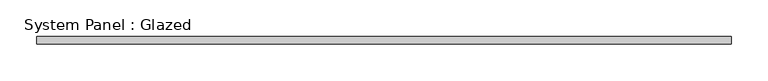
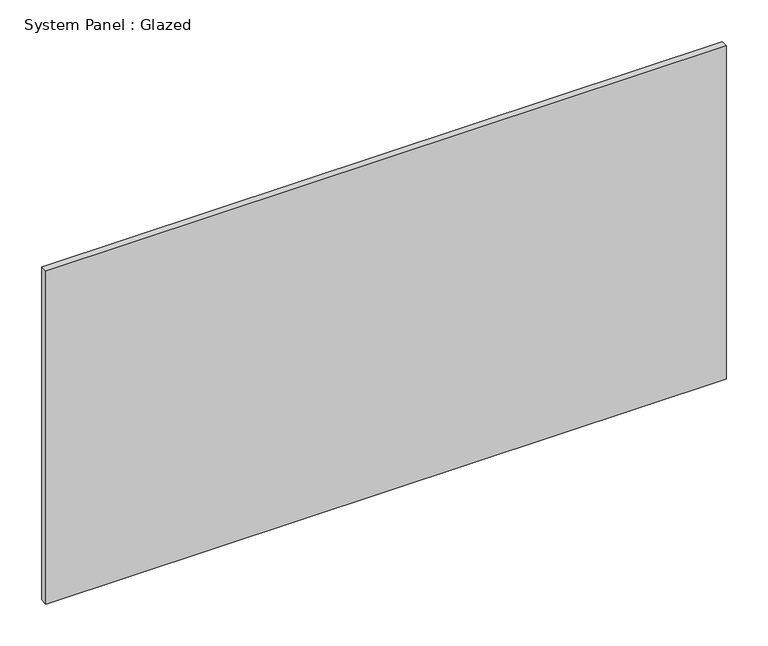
"""IFC4 building model written with IfcOpenShell, lengths in millimetres: plate geometry, System Panel : Glazed."""

from ifc_helpers import new_model, si_unit, origin, origin_with_axes, place, context, project, spatial, polyline, outline, extrude, source, transform, mapped, element, save


def system_panel_glazed_908aa84a(model_context):
    return source(origin(), model_context, "Body", "SweptSolid", [
        extrude(outline(polyline([(471.3037323, -5.0), (-471.3037323, -5.0), (-471.3037323, 5.0), (471.3037323, 5.0), (471.3037323, -5.0)])), origin_with_axes(), (0.0, 0.0, 1.0), 488.3333333),
    ])


if __name__ == "__main__":
    model = new_model("IFC4")
    model_context = context("Model", 3, world=origin())
    ifc_project = project(units=[si_unit("LENGTHUNIT", "METRE", prefix="MILLI")], contexts=[model_context])
    site = spatial("IfcSite", under=ifc_project)
    building = spatial("IfcBuilding", under=site)
    placement = place(None, origin())
    system_panel_glazed_shape = system_panel_glazed_908aa84a(model_context)
    element("IfcPlate", 1, ObjectType="System Panel : Glazed", at=placement, inside=building, context=model_context, shape_type="MappedRepresentation", body=[
        mapped(system_panel_glazed_shape, transform((0.0, 0.0, 0.0), x_axis=(1.0, 0.0, 0.0), y_axis=(0.0, 1.0, 0.0), z_axis=(0.0, 0.0, 1.0))),
    ])
    save(model, "model.ifc")
